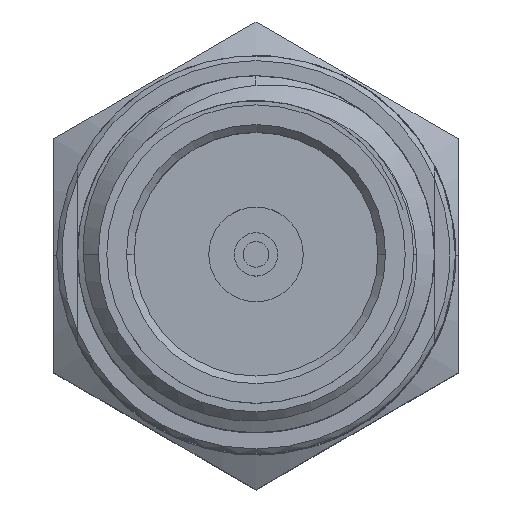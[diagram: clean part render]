
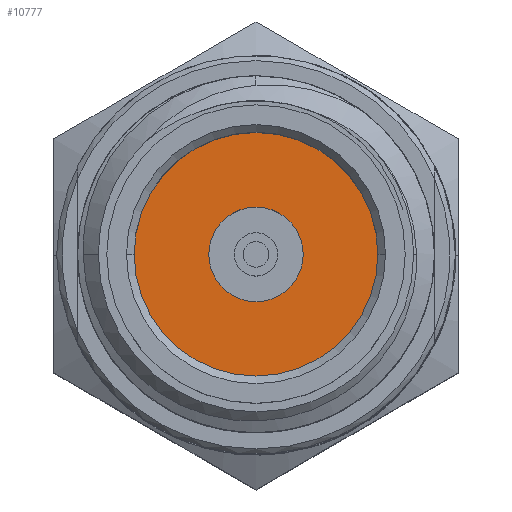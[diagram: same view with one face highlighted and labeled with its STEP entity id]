
A CAD part, top view. The second image highlights one B-rep face of the part: STEP entity #10777.
In plain terms, the highlighted planar face has unit normal (0, 0, 1).
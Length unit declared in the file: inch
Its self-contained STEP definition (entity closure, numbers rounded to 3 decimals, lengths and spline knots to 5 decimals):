
#589 = DIRECTION ( 'NONE',  ( 1., 0., 0. ) ) ;
#1506 = CARTESIAN_POINT ( 'NONE',  ( 0., 0., 0.54921 ) ) ;
#2285 = AXIS2_PLACEMENT_3D ( 'NONE', #5015, #13250, #6354 ) ;
#2828 = ORIENTED_EDGE ( 'NONE', *, *, #14652, .F. ) ;
#3276 = EDGE_CURVE ( 'NONE', #3552, #12787, #6647, .T. ) ;
#3552 = VERTEX_POINT ( 'NONE', #11425 ) ;
#3632 = DIRECTION ( 'NONE',  ( -1., 0., 0. ) ) ;
#3780 = CARTESIAN_POINT ( 'NONE',  ( 0.0939, 0., 0.54921 ) ) ;
#5015 = CARTESIAN_POINT ( 'NONE',  ( 0., 0., 0.54921 ) ) ;
#5216 = DIRECTION ( 'NONE',  ( 0., 0., -1. ) ) ;
#5271 = DIRECTION ( 'NONE',  ( 1., 0., 0. ) ) ;
#6354 = DIRECTION ( 'NONE',  ( 1., 0., 0. ) ) ;
#6528 = CARTESIAN_POINT ( 'NONE',  ( 0., 0., 0.54921 ) ) ;
#6647 = CIRCLE ( 'NONE', #11192, 0.03642 ) ;
#6931 = DIRECTION ( 'NONE',  ( 0., 0., 1. ) ) ;
#7063 = AXIS2_PLACEMENT_3D ( 'NONE', #15766, #5216, #3632 ) ;
#7254 = DIRECTION ( 'NONE',  ( 0., 0., 1. ) ) ;
#7341 = AXIS2_PLACEMENT_3D ( 'NONE', #6528, #17413, #5271 ) ;
#7528 = EDGE_CURVE ( 'NONE', #8173, #11440, #9596, .T. ) ;
#7632 = FACE_OUTER_BOUND ( 'NONE', #16182, .T. ) ;
#8016 = ORIENTED_EDGE ( 'NONE', *, *, #9697, .T. ) ;
#8173 = VERTEX_POINT ( 'NONE', #3780 ) ;
#8559 = EDGE_LOOP ( 'NONE', ( #2828, #17372 ) ) ;
#8676 = CARTESIAN_POINT ( 'NONE',  ( 0., 0., 0.54921 ) ) ;
#9596 = CIRCLE ( 'NONE', #7341, 0.0939 ) ;
#9697 = EDGE_CURVE ( 'NONE', #11440, #8173, #10469, .T. ) ;
#10121 = CARTESIAN_POINT ( 'NONE',  ( 0.03642, 0., 0.54921 ) ) ;
#10469 = CIRCLE ( 'NONE', #12739, 0.0939 ) ;
#10634 = FACE_BOUND ( 'NONE', #8559, .T. ) ;
#10777 = ADVANCED_FACE ( 'NONE', ( #7632, #10634 ), #17357, .F. ) ;
#11192 = AXIS2_PLACEMENT_3D ( 'NONE', #8676, #7254, #589 ) ;
#11425 = CARTESIAN_POINT ( 'NONE',  ( -0.03642, 0., 0.54921 ) ) ;
#11440 = VERTEX_POINT ( 'NONE', #15360 ) ;
#11550 = ORIENTED_EDGE ( 'NONE', *, *, #7528, .T. ) ;
#11651 = CIRCLE ( 'NONE', #2285, 0.03642 ) ;
#12739 = AXIS2_PLACEMENT_3D ( 'NONE', #1506, #6931, #17379 ) ;
#12787 = VERTEX_POINT ( 'NONE', #10121 ) ;
#13250 = DIRECTION ( 'NONE',  ( 0., 0., 1. ) ) ;
#14652 = EDGE_CURVE ( 'NONE', #12787, #3552, #11651, .T. ) ;
#15360 = CARTESIAN_POINT ( 'NONE',  ( -0.0939, 0., 0.54921 ) ) ;
#15766 = CARTESIAN_POINT ( 'NONE',  ( 0., 0.0939, 0.54921 ) ) ;
#16182 = EDGE_LOOP ( 'NONE', ( #11550, #8016 ) ) ;
#17357 = PLANE ( 'NONE',  #7063 ) ;
#17372 = ORIENTED_EDGE ( 'NONE', *, *, #3276, .F. ) ;
#17379 = DIRECTION ( 'NONE',  ( 1., 0., 0. ) ) ;
#17413 = DIRECTION ( 'NONE',  ( 0., 0., 1. ) ) ;
